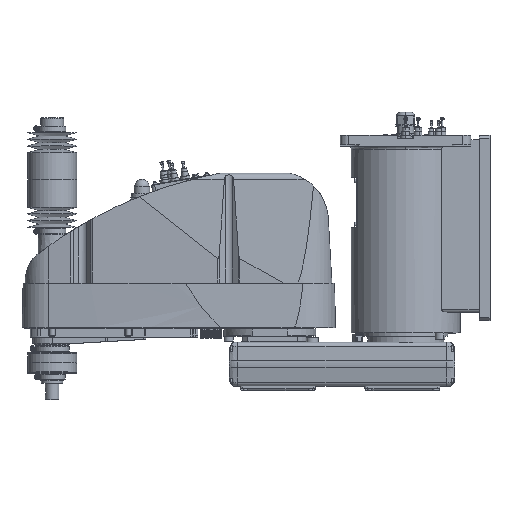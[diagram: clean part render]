
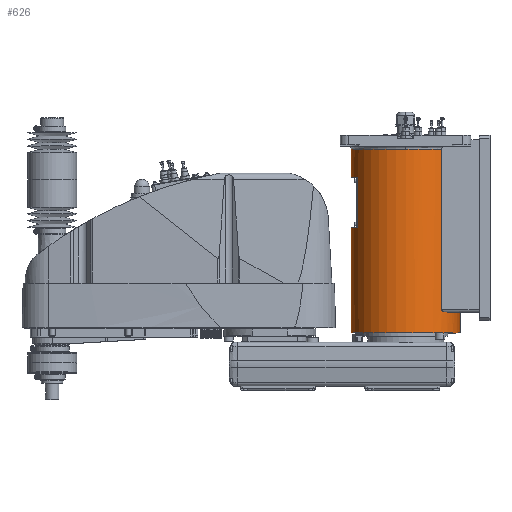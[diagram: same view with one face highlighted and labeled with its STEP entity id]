
A CAD part, top view. The second image highlights one B-rep face of the part: STEP entity #626.
In plain terms, the highlighted cylindrical face has radius 100 mm (diameter 200 mm), a partial arc.
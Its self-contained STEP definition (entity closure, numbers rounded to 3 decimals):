
#626 = ADVANCED_FACE( '', ( #3135 ), #3136, .T. );
#3135 = FACE_OUTER_BOUND( '', #8066, .T. );
#3136 = CYLINDRICAL_SURFACE( '', #8067, 100. );
#8066 = EDGE_LOOP( '', ( #14101, #14102, #14103, #14104, #14105, #14106, #14107, #14108, #14109, #14110, #14111, #14112, #14113, #14114, #14115, #14116 ) );
#8067 = AXIS2_PLACEMENT_3D( '', #14117, #14118, #14119 );
#14101 = ORIENTED_EDGE( '', *, *, #31157, .T. );
#14102 = ORIENTED_EDGE( '', *, *, #31265, .T. );
#14103 = ORIENTED_EDGE( '', *, *, #31256, .T. );
#14104 = ORIENTED_EDGE( '', *, *, #31252, .T. );
#14105 = ORIENTED_EDGE( '', *, *, #31259, .T. );
#14106 = ORIENTED_EDGE( '', *, *, #31264, .T. );
#14107 = ORIENTED_EDGE( '', *, *, #31268, .T. );
#14108 = ORIENTED_EDGE( '', *, *, #31269, .T. );
#14109 = ORIENTED_EDGE( '', *, *, #30509, .F. );
#14110 = ORIENTED_EDGE( '', *, *, #30514, .F. );
#14111 = ORIENTED_EDGE( '', *, *, #31163, .T. );
#14112 = ORIENTED_EDGE( '', *, *, #31270, .T. );
#14113 = ORIENTED_EDGE( '', *, *, #31271, .T. );
#14114 = ORIENTED_EDGE( '', *, *, #31272, .T. );
#14115 = ORIENTED_EDGE( '', *, *, #31159, .T. );
#14116 = ORIENTED_EDGE( '', *, *, #31273, .T. );
#14117 = CARTESIAN_POINT( '', ( 0., 194., 0. ) );
#14118 = DIRECTION( '', ( 0., -1., 0. ) );
#14119 = DIRECTION( '', ( 1., 0., 0. ) );
#30509 = EDGE_CURVE( '', #36046, #36048, #36049, .T. );
#30514 = EDGE_CURVE( '', #36056, #36046, #36058, .T. );
#31157 = EDGE_CURVE( '', #37291, #37292, #37293, .T. );
#31159 = EDGE_CURVE( '', #37296, #37294, #37297, .T. );
#31163 = EDGE_CURVE( '', #36056, #37302, #37304, .T. );
#31252 = EDGE_CURVE( '', #37450, #37451, #37452, .T. );
#31256 = EDGE_CURVE( '', #37458, #37450, #37459, .T. );
#31259 = EDGE_CURVE( '', #37451, #37463, #37464, .T. );
#31264 = EDGE_CURVE( '', #37463, #37470, #37472, .T. );
#31265 = EDGE_CURVE( '', #37292, #37458, #37473, .T. );
#31268 = EDGE_CURVE( '', #37470, #37477, #37478, .T. );
#31269 = EDGE_CURVE( '', #37477, #36048, #37479, .T. );
#31270 = EDGE_CURVE( '', #37302, #37480, #37481, .T. );
#31271 = EDGE_CURVE( '', #37480, #37482, #37483, .T. );
#31272 = EDGE_CURVE( '', #37482, #37296, #37484, .T. );
#31273 = EDGE_CURVE( '', #37294, #37291, #37485, .T. );
#36046 = VERTEX_POINT( '', #45155 );
#36048 = VERTEX_POINT( '', #45157 );
#36049 = CIRCLE( '', #45158, 100. );
#36056 = VERTEX_POINT( '', #45192 );
#36058 = CIRCLE( '', #45194, 100. );
#37291 = VERTEX_POINT( '', #46765 );
#37292 = VERTEX_POINT( '', #46766 );
#37293 = LINE( '', #46767, #46768 );
#37294 = VERTEX_POINT( '', #46769 );
#37296 = VERTEX_POINT( '', #46771 );
#37297 = LINE( '', #46772, #46773 );
#37302 = VERTEX_POINT( '', #46779 );
#37304 = LINE( '', #46781, #46782 );
#37450 = VERTEX_POINT( '', #47004 );
#37451 = VERTEX_POINT( '', #47005 );
#37452 = CIRCLE( '', #47006, 100. );
#37458 = VERTEX_POINT( '', #47015 );
#37459 = LINE( '', #47016, #47017 );
#37463 = VERTEX_POINT( '', #47023 );
#37464 = LINE( '', #47024, #47025 );
#37470 = VERTEX_POINT( '', #47034 );
#37472 = CIRCLE( '', #47037, 100. );
#37473 = CIRCLE( '', #47038, 100. );
#37477 = VERTEX_POINT( '', #47044 );
#37478 = B_SPLINE_CURVE_WITH_KNOTS( '', 3, ( #47045, #47046, #47047, #47048, #47049, #47050, #47051, #47052, #47053, #47054, #47055, #47056, #47057, #47058, #47059, #47060, #47061, #47062 ), .UNSPECIFIED., .F., .F., ( 4, 2, 2, 2, 2, 2, 2, 2, 4 ), ( 7.241, 8.361, 9.482, 10.602, 11.722, 12.472, 13.222, 13.972, 14.722 ), .UNSPECIFIED. );
#37479 = LINE( '', #47063, #47064 );
#37480 = VERTEX_POINT( '', #47065 );
#37481 = CIRCLE( '', #47066, 100. );
#37482 = VERTEX_POINT( '', #47067 );
#37483 = LINE( '', #47068, #47069 );
#37484 = CIRCLE( '', #47070, 100. );
#37485 = CIRCLE( '', #47071, 100. );
#45155 = CARTESIAN_POINT( '', ( 0., 363., 100. ) );
#45157 = CARTESIAN_POINT( '', ( 66.144, 363., 75. ) );
#45158 = AXIS2_PLACEMENT_3D( '', #60196, #60197, #60198 );
#45192 = CARTESIAN_POINT( '', ( -100., 363., 0. ) );
#45194 = AXIS2_PLACEMENT_3D( '', #60208, #60209, #60210 );
#46765 = CARTESIAN_POINT( '', ( 100., 25., 0. ) );
#46766 = CARTESIAN_POINT( '', ( 100., 64., 0. ) );
#46767 = CARTESIAN_POINT( '', ( 100., 194., 0. ) );
#46768 = VECTOR( '', #61461, 1. );
#46769 = CARTESIAN_POINT( '', ( -100., 25., 0. ) );
#46771 = CARTESIAN_POINT( '', ( -100., 218.3, 0. ) );
#46772 = CARTESIAN_POINT( '', ( -100., 194., 0. ) );
#46773 = VECTOR( '', #61465, 1. );
#46779 = CARTESIAN_POINT( '', ( -100., 311.3, 0. ) );
#46781 = CARTESIAN_POINT( '', ( -100., 194., 0. ) );
#46782 = VECTOR( '', #61473, 1. );
#47004 = CARTESIAN_POINT( '', ( 89.303, 62., 45. ) );
#47005 = CARTESIAN_POINT( '', ( 75.993, 62., 65. ) );
#47006 = AXIS2_PLACEMENT_3D( '', #61617, #61618, #61619 );
#47015 = CARTESIAN_POINT( '', ( 89.303, 64., 45. ) );
#47016 = CARTESIAN_POINT( '', ( 89.303, 63., 45. ) );
#47017 = VECTOR( '', #61623, 1. );
#47023 = CARTESIAN_POINT( '', ( 75.993, 64., 65. ) );
#47024 = CARTESIAN_POINT( '', ( 75.993, 63., 65. ) );
#47025 = VECTOR( '', #61626, 1. );
#47034 = CARTESIAN_POINT( '', ( 70.42, 64., 71. ) );
#47037 = AXIS2_PLACEMENT_3D( '', #61631, #61632, #61633 );
#47038 = AXIS2_PLACEMENT_3D( '', #61634, #61635, #61636 );
#47044 = CARTESIAN_POINT( '', ( 66.144, 68., 75. ) );
#47045 = CARTESIAN_POINT( '', ( 70.42, 64., 71. ) );
#47046 = CARTESIAN_POINT( '', ( 70.155, 64., 71.263 ) );
#47047 = CARTESIAN_POINT( '', ( 69.877, 64.026, 71.535 ) );
#47048 = CARTESIAN_POINT( '', ( 69.316, 64.139, 72.08 ) );
#47049 = CARTESIAN_POINT( '', ( 69.031, 64.224, 72.352 ) );
#47050 = CARTESIAN_POINT( '', ( 68.475, 64.457, 72.879 ) );
#47051 = CARTESIAN_POINT( '', ( 68.203, 64.604, 73.134 ) );
#47052 = CARTESIAN_POINT( '', ( 67.688, 64.954, 73.61 ) );
#47053 = CARTESIAN_POINT( '', ( 67.446, 65.158, 73.831 ) );
#47054 = CARTESIAN_POINT( '', ( 67.082, 65.542, 74.162 ) );
#47055 = CARTESIAN_POINT( '', ( 66.938, 65.716, 74.292 ) );
#47056 = CARTESIAN_POINT( '', ( 66.674, 66.103, 74.529 ) );
#47057 = CARTESIAN_POINT( '', ( 66.555, 66.315, 74.636 ) );
#47058 = CARTESIAN_POINT( '', ( 66.356, 66.766, 74.812 ) );
#47059 = CARTESIAN_POINT( '', ( 66.277, 67.005, 74.882 ) );
#47060 = CARTESIAN_POINT( '', ( 66.171, 67.497, 74.976 ) );
#47061 = CARTESIAN_POINT( '', ( 66.144, 67.75, 75. ) );
#47062 = CARTESIAN_POINT( '', ( 66.144, 68., 75. ) );
#47063 = CARTESIAN_POINT( '', ( 66.144, 215.5, 75. ) );
#47064 = VECTOR( '', #61639, 1. );
#47065 = CARTESIAN_POINT( '', ( -88., 311.3, 47.497 ) );
#47066 = AXIS2_PLACEMENT_3D( '', #61640, #61641, #61642 );
#47067 = CARTESIAN_POINT( '', ( -88., 218.3, 47.497 ) );
#47068 = CARTESIAN_POINT( '', ( -88., 264.8, 47.497 ) );
#47069 = VECTOR( '', #61643, 1. );
#47070 = AXIS2_PLACEMENT_3D( '', #61644, #61645, #61646 );
#47071 = AXIS2_PLACEMENT_3D( '', #61647, #61648, #61649 );
#60196 = CARTESIAN_POINT( '', ( 0., 363., 0. ) );
#60197 = DIRECTION( '', ( 0., 1., 0. ) );
#60198 = DIRECTION( '', ( 1., 0., 0. ) );
#60208 = CARTESIAN_POINT( '', ( 0., 363., 0. ) );
#60209 = DIRECTION( '', ( 0., 1., 0. ) );
#60210 = DIRECTION( '', ( 1., 0., 0. ) );
#61461 = DIRECTION( '', ( 0., 1., 0. ) );
#61465 = DIRECTION( '', ( 0., -1., 0. ) );
#61473 = DIRECTION( '', ( 0., -1., 0. ) );
#61617 = CARTESIAN_POINT( '', ( 0., 62., 0. ) );
#61618 = DIRECTION( '', ( 0., -1., 0. ) );
#61619 = DIRECTION( '', ( 1., 0., 0. ) );
#61623 = DIRECTION( '', ( 0., -1., 0. ) );
#61626 = DIRECTION( '', ( 0., 1., 0. ) );
#61631 = CARTESIAN_POINT( '', ( 0., 64., 0. ) );
#61632 = DIRECTION( '', ( 0., -1., 0. ) );
#61633 = DIRECTION( '', ( 1., 0., 0. ) );
#61634 = CARTESIAN_POINT( '', ( 0., 64., 0. ) );
#61635 = DIRECTION( '', ( 0., -1., 0. ) );
#61636 = DIRECTION( '', ( 1., 0., 0. ) );
#61639 = DIRECTION( '', ( 0., 1., 0. ) );
#61640 = CARTESIAN_POINT( '', ( 0., 311.3, 0. ) );
#61641 = DIRECTION( '', ( 0., 1., 0. ) );
#61642 = DIRECTION( '', ( 1., 0., 0. ) );
#61643 = DIRECTION( '', ( 0., -1., 0. ) );
#61644 = CARTESIAN_POINT( '', ( 0., 218.3, 0. ) );
#61645 = DIRECTION( '', ( 0., -1., 0. ) );
#61646 = DIRECTION( '', ( 1., 0., 0. ) );
#61647 = CARTESIAN_POINT( '', ( 0., 25., 0. ) );
#61648 = DIRECTION( '', ( 0., 1., 0. ) );
#61649 = DIRECTION( '', ( 1., 0., 0. ) );
